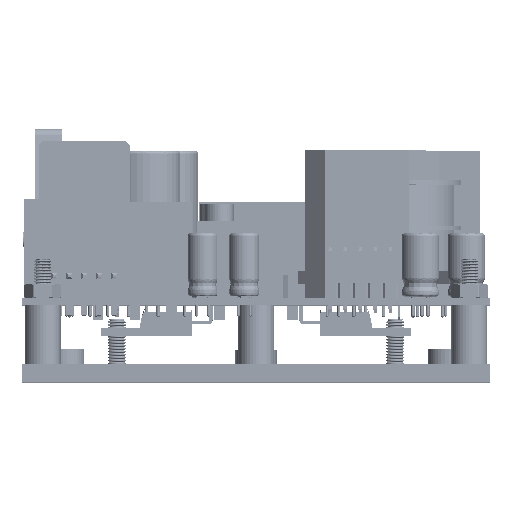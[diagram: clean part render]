
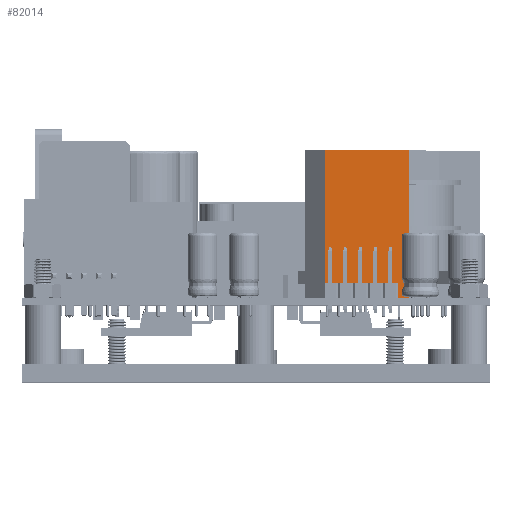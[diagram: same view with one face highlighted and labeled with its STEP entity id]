
A CAD part, top view. The second image highlights one B-rep face of the part: STEP entity #82014.
In plain terms, the highlighted planar face has unit normal (0, 0, 1) as drawn and (0, -1, 0) by its records, which use the part's own axes.
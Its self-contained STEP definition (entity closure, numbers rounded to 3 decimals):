
#979 = VECTOR ( 'NONE', #4761, 1000. ) ;
#4761 = DIRECTION ( 'NONE',  ( -1., 0., 0. ) ) ;
#6297 = FACE_OUTER_BOUND ( 'NONE', #114561, .T. ) ;
#9429 = EDGE_CURVE ( 'NONE', #74618, #70873, #122919, .T. ) ;
#10245 = CARTESIAN_POINT ( 'NONE',  ( 51.07, 36.268, 0.1 ) ) ;
#34727 = ORIENTED_EDGE ( 'NONE', *, *, #109251, .F. ) ;
#39893 = PLANE ( 'NONE',  #87816 ) ;
#44590 = VECTOR ( 'NONE', #112695, 1000. ) ;
#45090 = DIRECTION ( 'NONE',  ( 0., 0., 1. ) ) ;
#46396 = CARTESIAN_POINT ( 'NONE',  ( 65.294, 36.268, 0.1 ) ) ;
#49779 = DIRECTION ( 'NONE',  ( -1., 0., 0. ) ) ;
#51004 = CARTESIAN_POINT ( 'NONE',  ( 65.294, 36.268, 25. ) ) ;
#57045 = LINE ( 'NONE', #96066, #979 ) ;
#58725 = VERTEX_POINT ( 'NONE', #110385 ) ;
#64040 = VECTOR ( 'NONE', #49779, 1000. ) ;
#70873 = VERTEX_POINT ( 'NONE', #51004 ) ;
#71913 = LINE ( 'NONE', #10245, #44590 ) ;
#74418 = VERTEX_POINT ( 'NONE', #82140 ) ;
#74618 = VERTEX_POINT ( 'NONE', #119644 ) ;
#82014 = ADVANCED_FACE ( 'NONE', ( #6297 ), #39893, .T. ) ;
#82140 = CARTESIAN_POINT ( 'NONE',  ( 51.07, 36.268, 0.1 ) ) ;
#87816 = AXIS2_PLACEMENT_3D ( 'NONE', #131157, #110123, #120879 ) ;
#96066 = CARTESIAN_POINT ( 'NONE',  ( 47.768, 36.268, 0.1 ) ) ;
#102110 = VECTOR ( 'NONE', #45090, 1000. ) ;
#106683 = ORIENTED_EDGE ( 'NONE', *, *, #9429, .T. ) ;
#107268 = LINE ( 'NONE', #121794, #64040 ) ;
#108806 = EDGE_CURVE ( 'NONE', #70873, #58725, #107268, .T. ) ;
#109251 = EDGE_CURVE ( 'NONE', #74418, #58725, #71913, .T. ) ;
#110123 = DIRECTION ( 'NONE',  ( 0., -1., 0. ) ) ;
#110385 = CARTESIAN_POINT ( 'NONE',  ( 51.07, 36.268, 25. ) ) ;
#111971 = ORIENTED_EDGE ( 'NONE', *, *, #108806, .T. ) ;
#112695 = DIRECTION ( 'NONE',  ( 0., 0., 1. ) ) ;
#114561 = EDGE_LOOP ( 'NONE', ( #34727, #119681, #106683, #111971 ) ) ;
#119644 = CARTESIAN_POINT ( 'NONE',  ( 65.294, 36.268, 0.1 ) ) ;
#119681 = ORIENTED_EDGE ( 'NONE', *, *, #131505, .F. ) ;
#120879 = DIRECTION ( 'NONE',  ( 0., 0., -1. ) ) ;
#121794 = CARTESIAN_POINT ( 'NONE',  ( 65.294, 36.268, 25. ) ) ;
#122919 = LINE ( 'NONE', #46396, #102110 ) ;
#131157 = CARTESIAN_POINT ( 'NONE',  ( 65.294, 36.268, 0.1 ) ) ;
#131505 = EDGE_CURVE ( 'NONE', #74618, #74418, #57045, .T. ) ;
